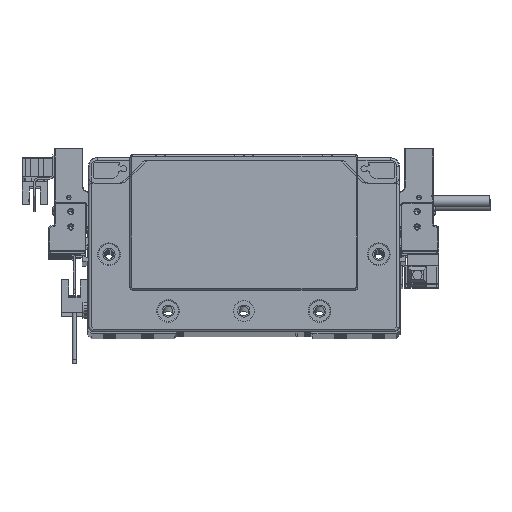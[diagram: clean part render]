
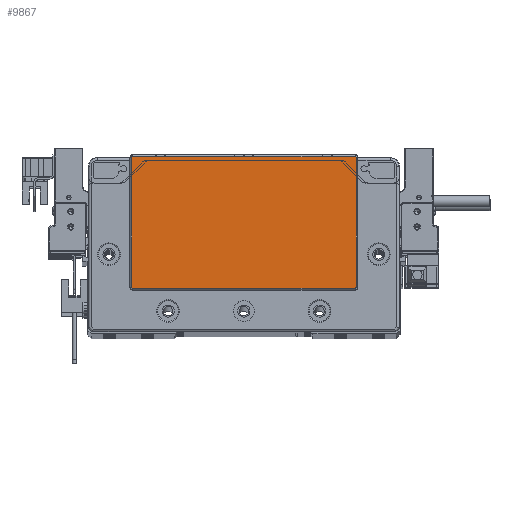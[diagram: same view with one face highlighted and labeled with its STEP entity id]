
A CAD part, top view. The second image highlights one B-rep face of the part: STEP entity #9867.
In plain terms, the highlighted planar face has unit normal (0, 0, 1) as drawn and (0, 0, -1) by its records, which use the part's own axes.
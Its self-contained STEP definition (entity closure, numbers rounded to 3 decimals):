
#593 = DIRECTION ( 'NONE',  ( 0., 0., -1. ) ) ;
#2277 = CARTESIAN_POINT ( 'NONE',  ( -58.75, 45.8, -2. ) ) ;
#5320 = AXIS2_PLACEMENT_3D ( 'NONE', #58855, #593, #75201 ) ;
#6210 = CARTESIAN_POINT ( 'NONE',  ( -59.25, 45.3, -2. ) ) ;
#9867 = ADVANCED_FACE ( 'NONE', ( #51920 ), #85171, .T. ) ;
#9948 = EDGE_CURVE ( 'NONE', #74999, #92270, #57539, .T. ) ;
#10529 = CARTESIAN_POINT ( 'NONE',  ( 0., 0., -2. ) ) ;
#12743 = EDGE_LOOP ( 'NONE', ( #41816, #88321, #79406, #101411, #39786, #32977, #99898, #92285 ) ) ;
#15776 = VECTOR ( 'NONE', #31743, 1000. ) ;
#15833 = AXIS2_PLACEMENT_3D ( 'NONE', #20688, #93733, #36466 ) ;
#16311 = VECTOR ( 'NONE', #76563, 1000. ) ;
#16451 = DIRECTION ( 'NONE',  ( 0., 0., -1. ) ) ;
#16900 = DIRECTION ( 'NONE',  ( 1., 0., 0. ) ) ;
#17469 = EDGE_CURVE ( 'NONE', #92270, #28648, #82482, .T. ) ;
#19385 = CIRCLE ( 'NONE', #15833, 0.5 ) ;
#20688 = CARTESIAN_POINT ( 'NONE',  ( 58.75, -23.3, -2. ) ) ;
#23188 = DIRECTION ( 'NONE',  ( 0., 0., -1. ) ) ;
#23213 = VERTEX_POINT ( 'NONE', #2277 ) ;
#24142 = CARTESIAN_POINT ( 'NONE',  ( 59.25, -23.3, -2. ) ) ;
#24353 = EDGE_CURVE ( 'NONE', #80541, #23213, #54529, .T. ) ;
#28648 = VERTEX_POINT ( 'NONE', #45165 ) ;
#31743 = DIRECTION ( 'NONE',  ( 0., -1., 0. ) ) ;
#32977 = ORIENTED_EDGE ( 'NONE', *, *, #24353, .T. ) ;
#33806 = CARTESIAN_POINT ( 'NONE',  ( 59.25, -23.3, -2. ) ) ;
#34616 = VECTOR ( 'NONE', #64625, 1000. ) ;
#36191 = VERTEX_POINT ( 'NONE', #50784 ) ;
#36466 = DIRECTION ( 'NONE',  ( -1., 0., 0. ) ) ;
#36492 = VERTEX_POINT ( 'NONE', #33806 ) ;
#36784 = CARTESIAN_POINT ( 'NONE',  ( -59.25, 45.3, -2. ) ) ;
#38446 = DIRECTION ( 'NONE',  ( -1., 0., 0. ) ) ;
#39786 = ORIENTED_EDGE ( 'NONE', *, *, #61711, .T. ) ;
#40662 = EDGE_CURVE ( 'NONE', #51176, #36191, #71405, .T. ) ;
#41816 = ORIENTED_EDGE ( 'NONE', *, *, #49839, .T. ) ;
#42474 = LINE ( 'NONE', #75707, #82728 ) ;
#43742 = DIRECTION ( 'NONE',  ( 0., 0., -1. ) ) ;
#45165 = CARTESIAN_POINT ( 'NONE',  ( -59.25, -23.3, -2. ) ) ;
#47135 = CARTESIAN_POINT ( 'NONE',  ( -58.75, 45.3, -2. ) ) ;
#49839 = EDGE_CURVE ( 'NONE', #36191, #36492, #65489, .T. ) ;
#50081 = CARTESIAN_POINT ( 'NONE',  ( 58.75, -23.8, -2. ) ) ;
#50784 = CARTESIAN_POINT ( 'NONE',  ( 59.25, 45.3, -2. ) ) ;
#51176 = VERTEX_POINT ( 'NONE', #87419 ) ;
#51920 = FACE_OUTER_BOUND ( 'NONE', #12743, .T. ) ;
#54529 = CIRCLE ( 'NONE', #57945, 0.5 ) ;
#57539 = LINE ( 'NONE', #100062, #34616 ) ;
#57945 = AXIS2_PLACEMENT_3D ( 'NONE', #47135, #23188, #38446 ) ;
#58855 = CARTESIAN_POINT ( 'NONE',  ( 58.75, 45.3, -2. ) ) ;
#61711 = EDGE_CURVE ( 'NONE', #28648, #80541, #78188, .T. ) ;
#64625 = DIRECTION ( 'NONE',  ( -1., 0., 0. ) ) ;
#65017 = AXIS2_PLACEMENT_3D ( 'NONE', #73121, #16451, #105325 ) ;
#65489 = LINE ( 'NONE', #24142, #15776 ) ;
#71405 = CIRCLE ( 'NONE', #5320, 0.5 ) ;
#73121 = CARTESIAN_POINT ( 'NONE',  ( -58.75, -23.3, -2. ) ) ;
#74999 = VERTEX_POINT ( 'NONE', #50081 ) ;
#75201 = DIRECTION ( 'NONE',  ( -1., 0., 0. ) ) ;
#75707 = CARTESIAN_POINT ( 'NONE',  ( 58.75, 45.8, -2. ) ) ;
#76117 = EDGE_CURVE ( 'NONE', #23213, #51176, #42474, .T. ) ;
#76563 = DIRECTION ( 'NONE',  ( 0., 1., 0. ) ) ;
#76982 = DIRECTION ( 'NONE',  ( -1., 0., 0. ) ) ;
#78188 = LINE ( 'NONE', #36784, #16311 ) ;
#79406 = ORIENTED_EDGE ( 'NONE', *, *, #9948, .T. ) ;
#80541 = VERTEX_POINT ( 'NONE', #6210 ) ;
#82482 = CIRCLE ( 'NONE', #65017, 0.5 ) ;
#82728 = VECTOR ( 'NONE', #16900, 1000. ) ;
#85171 = PLANE ( 'NONE',  #90318 ) ;
#87419 = CARTESIAN_POINT ( 'NONE',  ( 58.75, 45.8, -2. ) ) ;
#88321 = ORIENTED_EDGE ( 'NONE', *, *, #90053, .T. ) ;
#90053 = EDGE_CURVE ( 'NONE', #36492, #74999, #19385, .T. ) ;
#90318 = AXIS2_PLACEMENT_3D ( 'NONE', #10529, #43742, #76982 ) ;
#91083 = CARTESIAN_POINT ( 'NONE',  ( -58.75, -23.8, -2. ) ) ;
#92270 = VERTEX_POINT ( 'NONE', #91083 ) ;
#92285 = ORIENTED_EDGE ( 'NONE', *, *, #40662, .T. ) ;
#93733 = DIRECTION ( 'NONE',  ( 0., 0., -1. ) ) ;
#99898 = ORIENTED_EDGE ( 'NONE', *, *, #76117, .T. ) ;
#100062 = CARTESIAN_POINT ( 'NONE',  ( -58.75, -23.8, -2. ) ) ;
#101411 = ORIENTED_EDGE ( 'NONE', *, *, #17469, .T. ) ;
#105325 = DIRECTION ( 'NONE',  ( -1., 0., 0. ) ) ;
